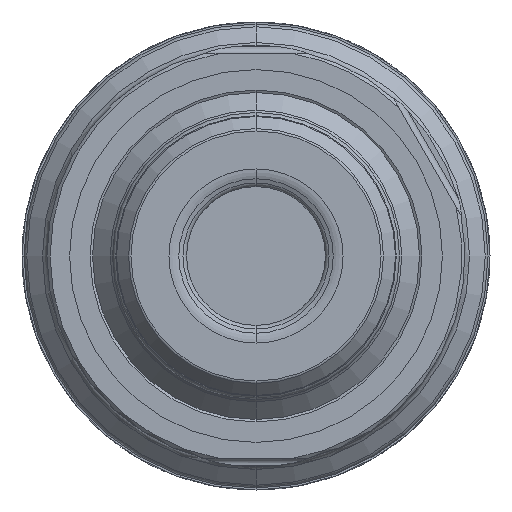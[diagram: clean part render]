
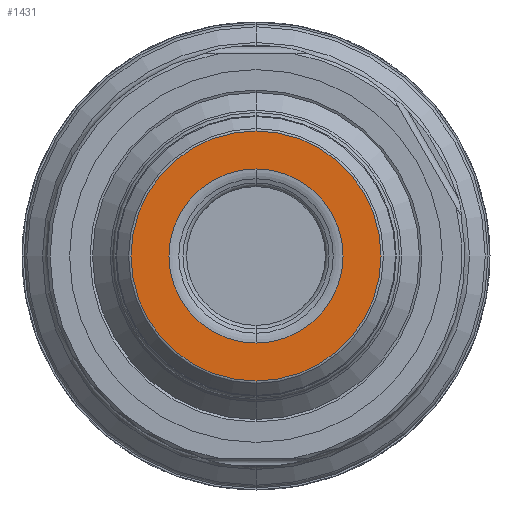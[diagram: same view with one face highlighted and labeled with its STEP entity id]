
A CAD part, front view. The second image highlights one B-rep face of the part: STEP entity #1431.
In plain terms, the highlighted planar face has unit normal (0, -1, 0).
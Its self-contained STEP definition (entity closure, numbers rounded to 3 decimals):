
#19 = DIRECTION ( 'NONE',  ( 0., 0., 1. ) ) ;
#406 = AXIS2_PLACEMENT_3D ( 'NONE', #3993, #4789, #2857 ) ;
#459 = CARTESIAN_POINT ( 'NONE',  ( 0., 0., 5.583 ) ) ;
#635 = EDGE_CURVE ( 'NONE', #2738, #3239, #1888, .T. ) ;
#665 = VERTEX_POINT ( 'NONE', #3067 ) ;
#743 = CARTESIAN_POINT ( 'NONE',  ( 0., 0., 0. ) ) ;
#779 = AXIS2_PLACEMENT_3D ( 'NONE', #3245, #4762, #4017 ) ;
#1194 = FACE_OUTER_BOUND ( 'NONE', #1410, .T. ) ;
#1410 = EDGE_LOOP ( 'NONE', ( #4694, #2037 ) ) ;
#1431 = ADVANCED_FACE ( 'NONE', ( #1194, #3857 ), #1916, .F. ) ;
#1588 = CARTESIAN_POINT ( 'NONE',  ( 8.016, 0., 0. ) ) ;
#1652 = AXIS2_PLACEMENT_3D ( 'NONE', #743, #3013, #19 ) ;
#1730 = EDGE_CURVE ( 'NONE', #3239, #2738, #2540, .T. ) ;
#1888 = CIRCLE ( 'NONE', #779, 8.016 ) ;
#1916 = PLANE ( 'NONE',  #4563 ) ;
#2037 = ORIENTED_EDGE ( 'NONE', *, *, #635, .F. ) ;
#2059 = VERTEX_POINT ( 'NONE', #459 ) ;
#2093 = ORIENTED_EDGE ( 'NONE', *, *, #4792, .T. ) ;
#2272 = DIRECTION ( 'NONE',  ( 0., 1., 0. ) ) ;
#2396 = CIRCLE ( 'NONE', #2458, 5.583 ) ;
#2458 = AXIS2_PLACEMENT_3D ( 'NONE', #4854, #2968, #4476 ) ;
#2540 = CIRCLE ( 'NONE', #1652, 8.016 ) ;
#2738 = VERTEX_POINT ( 'NONE', #4732 ) ;
#2857 = DIRECTION ( 'NONE',  ( 0., 0., 1. ) ) ;
#2968 = DIRECTION ( 'NONE',  ( 0., 1., 0. ) ) ;
#3013 = DIRECTION ( 'NONE',  ( 0., 1., 0. ) ) ;
#3067 = CARTESIAN_POINT ( 'NONE',  ( 0., 0., -5.583 ) ) ;
#3091 = DIRECTION ( 'NONE',  ( 0., 0., 1. ) ) ;
#3204 = CARTESIAN_POINT ( 'NONE',  ( 0., 0., 8.016 ) ) ;
#3239 = VERTEX_POINT ( 'NONE', #3204 ) ;
#3245 = CARTESIAN_POINT ( 'NONE',  ( 0., 0., 0. ) ) ;
#3857 = FACE_BOUND ( 'NONE', #4132, .T. ) ;
#3993 = CARTESIAN_POINT ( 'NONE',  ( 0., 0., 0. ) ) ;
#4017 = DIRECTION ( 'NONE',  ( 0., 0., 1. ) ) ;
#4132 = EDGE_LOOP ( 'NONE', ( #4920, #2093 ) ) ;
#4202 = EDGE_CURVE ( 'NONE', #2059, #665, #4615, .T. ) ;
#4476 = DIRECTION ( 'NONE',  ( 0., 0., 1. ) ) ;
#4563 = AXIS2_PLACEMENT_3D ( 'NONE', #1588, #2272, #3091 ) ;
#4615 = CIRCLE ( 'NONE', #406, 5.583 ) ;
#4694 = ORIENTED_EDGE ( 'NONE', *, *, #1730, .F. ) ;
#4732 = CARTESIAN_POINT ( 'NONE',  ( 0., 0., -8.016 ) ) ;
#4762 = DIRECTION ( 'NONE',  ( 0., 1., 0. ) ) ;
#4789 = DIRECTION ( 'NONE',  ( 0., 1., 0. ) ) ;
#4792 = EDGE_CURVE ( 'NONE', #665, #2059, #2396, .T. ) ;
#4854 = CARTESIAN_POINT ( 'NONE',  ( 0., 0., 0. ) ) ;
#4920 = ORIENTED_EDGE ( 'NONE', *, *, #4202, .T. ) ;
